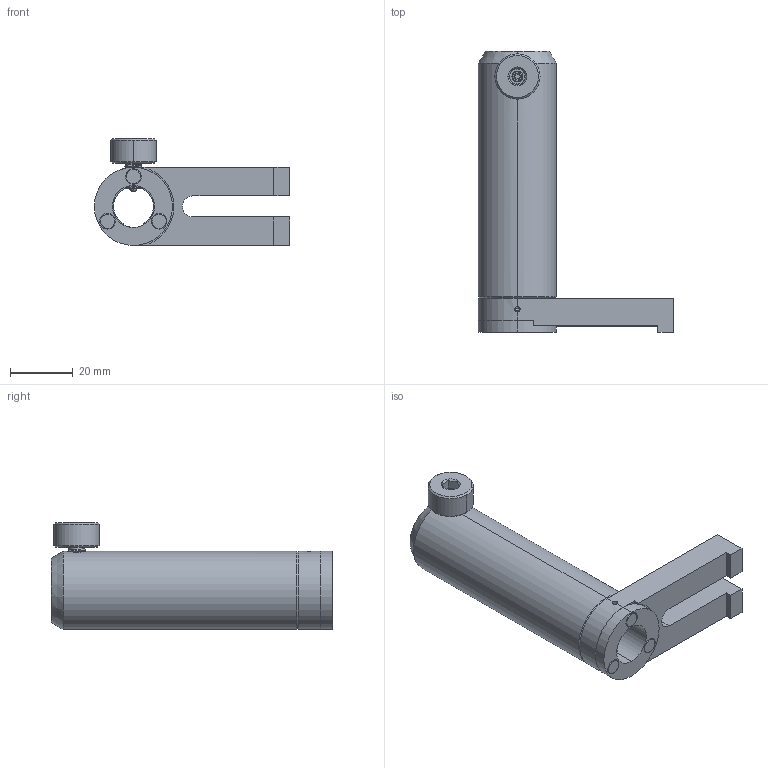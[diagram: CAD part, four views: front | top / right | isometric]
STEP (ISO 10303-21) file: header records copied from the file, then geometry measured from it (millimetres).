
FILE_DESCRIPTION((''),'2;1');
FILE_NAME('CA90-XC_ASM','2020-12-21T',('Administrator'),(''),'CREO PARAMETRIC BY PTC INC, 2015290','CREO PARAMETRIC BY PTC INC, 2015290','');
FILE_SCHEMA(('CONFIG_CONTROL_DESIGN'));
Length unit declared in the file: millimetre
Products named in the file (9): CAXX-XC_A2; CAXX-XC_A3; MAGNET_5X3; CA90-XC_A1; M6_SCREW_1; M6_SCREW_2; SPRING_3X6; M4X3_HS_2; CA90-XC_ASM
Assembly tree (10 placements, depth 2):
  CA90-XC_ASM
    CAXX-XC_A2
    CAXX-XC_A3
    MAGNET_5X3  x3
    CA90-XC_A1
    M6_SCREW_1
    M6_SCREW_2
    SPRING_3X6
    M4X3_HS_2
Bounding box: 62.5 x 90.13 x 34.22 mm (x, y, z)
Volume: 39787.5 mm3; surface area: 19073.8 mm2
Topology: 10 solids, 10 shells, 277 faces, 687 edges, 438 vertices
Faces by surface type: cylinder 122, plane 78, bspline 35, cone 28, torus 12, sphere 2
Entity records: 25546 total; most frequent: CARTESIAN_POINT 19460, ORIENTED_EDGE 1306, DIRECTION 1081, EDGE_CURVE 653, VERTEX_POINT 422, AXIS2_PLACEMENT_3D 397, EDGE_LOOP 289, VECTOR 287
